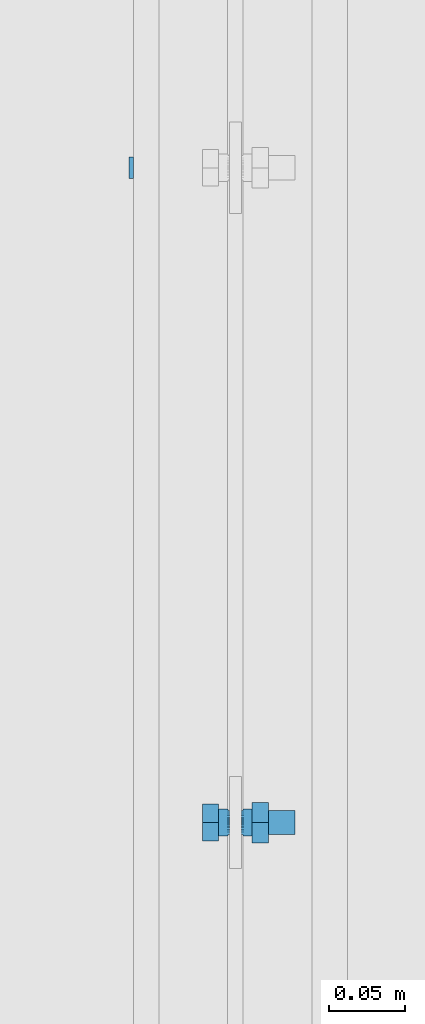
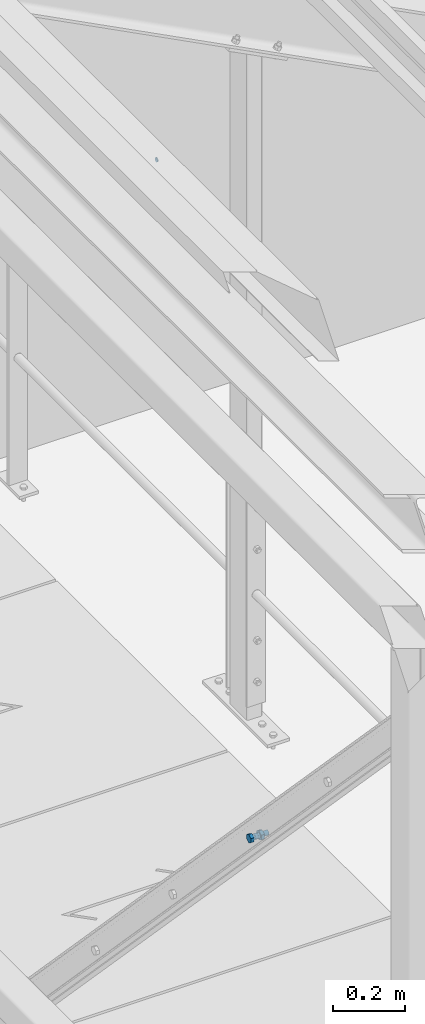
# One storey, part 261 of 362: 2 mechanical fasteners.
"""IFC2X3 building model written with IfcOpenShell, lengths in millimetres."""

from ifc_helpers import new_model, si_unit, frame, origin_with_axes, origin_2d_with_axis, place, context, subcontext, project, spatial, polyline, circle, outline, extrude, source, transform, mapped, material, type_object, element, save


model = new_model("IFC2X3")

# Units and contexts
model_context = context("Model", 3, precision=1e-05, world=origin_with_axes())
body_context = subcontext(model_context, "Body", "Model", "MODEL_VIEW")
ifc_project = project(units=[si_unit("LENGTHUNIT", "METRE", prefix="MILLI"), si_unit("AREAUNIT", "SQUARE_METRE"), si_unit("VOLUMEUNIT", "CUBIC_METRE"), si_unit("MASSUNIT", "GRAM", prefix="KILO"), si_unit("TIMEUNIT", "SECOND"), si_unit("PLANEANGLEUNIT", "RADIAN"), si_unit("SOLIDANGLEUNIT", "STERADIAN"), si_unit("THERMODYNAMICTEMPERATUREUNIT", "DEGREE_CELSIUS"), si_unit("LUMINOUSINTENSITYUNIT", "LUMEN")], contexts=[model_context])

# Site, building, storey
site_placement = place(None, origin_with_axes())
site = spatial("IfcSite", under=ifc_project, at=site_placement, Name="Undefined", CompositionType="ELEMENT")
building_placement = place(site_placement, origin_with_axes())
building = spatial("IfcBuilding", under=site, at=building_placement, Name="Undefined", CompositionType="ELEMENT")
storey_placement = place(building_placement, origin_with_axes())
storey = spatial("IfcBuildingStorey", under=building, at=storey_placement, Name="Undefined", CompositionType="ELEMENT", Elevation=0.0)

# Mechanical fasteners
ifc_material_1 = material(Name="6.8")
mechanical_fastener_type = type_object("IfcMechanicalFastenerType", Name="Bolt assembly")
shared_shape_1 = source(origin_with_axes(), body_context, "Body", "SweptSolid", [
    extrude(circle(Radius=7.0, at=origin_2d_with_axis()), frame((0.0, 0.0, 0.0), z_axis=(0.0, 1.0, 0.0), x_axis=(1.0, 0.0, 0.0)), (0.0, 0.0, 1.0), 3.1),
])
mechanical_fastener_1_placement = place(storey_placement, frame((23403.4999989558, 1900.00007884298, 11741.4098788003), z_axis=(0.0, -1.0, 0.0), x_axis=(0.0, 0.0, 1.0)))
element("IfcMechanicalFastener", 1, at=mechanical_fastener_1_placement, inside=storey, type_object=mechanical_fastener_type, material=ifc_material_1, Name="Bolt assembly", NominalDiameter=12.0, NominalLength=3.0, context=body_context, shape_type="MappedRepresentation", body=[
    mapped(shared_shape_1, transform((0.0, 0.0, 0.0))),
])
ifc_material_2 = material(Name="8.8-SB-ZINGUE")
shared_shape_2 = source(origin_with_axes(), body_context, "Body", "SweptSolid", [
    extrude(circle(Radius=9.0, at=origin_2d_with_axis()), frame((0.0, -10.9000000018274, 0.0), z_axis=(0.0, 1.0, 0.0), x_axis=(1.0, 0.0, 0.0)), (0.0, 0.0, 1.0), 6.0),
    extrude(circle(Radius=9.0, at=origin_2d_with_axis()), frame((0.0, 4.9000000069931, 0.0), z_axis=(0.0, 1.0, 0.0), x_axis=(1.0, 0.0, 0.0)), (0.0, 0.0, 1.0), 6.1),
    extrude(circle(Radius=9.0, at=origin_2d_with_axis()), frame((0.0, -3.99999923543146, 0.0), z_axis=(0.0, 1.0, 0.0), x_axis=(1.0, 0.0, 0.0)), (0.0, 0.0, 1.0), 8.0),
    extrude(outline(polyline([(13.85640646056, 0.0), (6.92820323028, 12.0000000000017), (-6.92820323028, 12.0000000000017), (-13.85640646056, 0.0), (-6.92820323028, -12.0000000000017), (6.92820323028, -12.0000000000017), (13.85640646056, 0.0)])), frame((0.0, -21.5600000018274, 0.0), z_axis=(0.0, 1.0, 0.0), x_axis=(1.0, 0.0, 0.0)), (0.0, 0.0, 1.0), 10.56),
    extrude(circle(Radius=8.0, at=origin_2d_with_axis()), frame((0.0, -11.0000000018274, 0.0), z_axis=(0.0, 1.0, 0.0), x_axis=(1.0, 0.0, 0.0)), (0.0, 0.0, 1.0), 50.0),
    extrude(outline(polyline([(15.3344231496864, 0.0), (7.6672115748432, 13.2800000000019), (-7.6672115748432, 13.2800000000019), (-15.3344231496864, 0.0), (-7.6672115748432, -13.2800000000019), (7.6672115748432, -13.2800000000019), (15.3344231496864, 0.0)])), frame((0.0, 11.0000000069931, 0.0), z_axis=(0.0, 1.0, 0.0), x_axis=(1.0, 0.0, 0.0)), (0.0, 0.0, 1.0), 10.56),
])
mechanical_fastener_2_placement = place(storey_placement, frame((23470.0, 1471.57961849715, 9692.39397989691), z_axis=(0.0, 1.0, 0.0), x_axis=(0.0, 0.0, 1.0)))
element("IfcMechanicalFastener", 2, at=mechanical_fastener_2_placement, inside=storey, type_object=mechanical_fastener_type, material=ifc_material_2, Name="Bolt assembly", NominalDiameter=16.0, NominalLength=50.0, context=body_context, shape_type="MappedRepresentation", body=[
    mapped(shared_shape_2, transform((0.0, 0.0, 0.0))),
])

save(model, "model.ifc")
